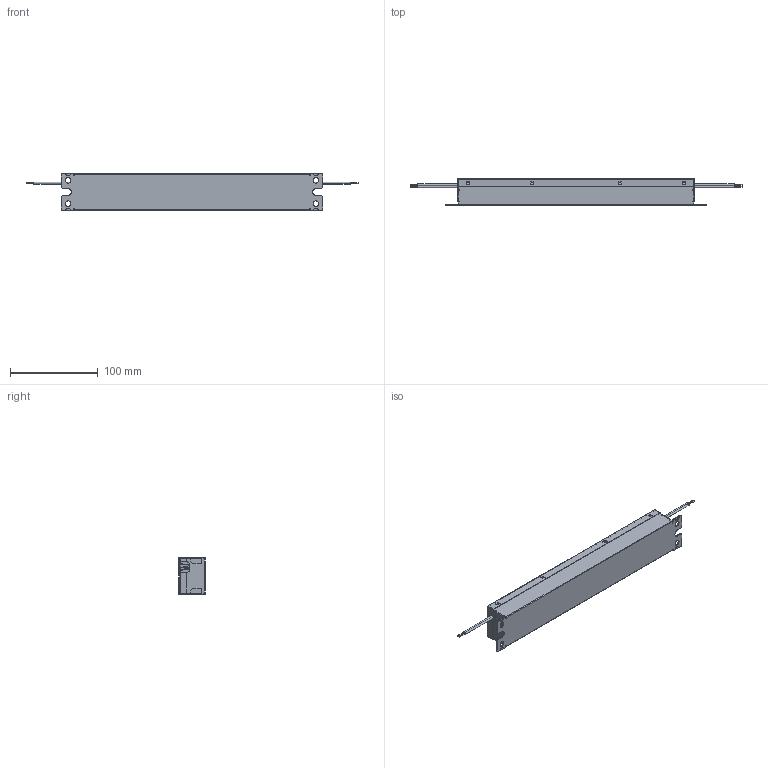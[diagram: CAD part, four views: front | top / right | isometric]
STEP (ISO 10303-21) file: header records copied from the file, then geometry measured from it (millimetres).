
FILE_DESCRIPTION (( 'STEP AP203' ), '1' );
FILE_NAME ('3D_USVI-120012FA.STEP', '2019-03-12T08:22:21', ( '' ), ( '' ), 'SwSTEP 2.0', 'SolidWorks 2016', '' );
FILE_SCHEMA (( 'CONFIG_CONTROL_DESIGN' ));
Length unit declared in the file: millimetre
Products named in the file (12): 3D_USVI-120012FA; Red+White wire; Base Body_F Can; Cover_F Can; SR (2 Wires); Base Side_A_F Can; SR (0 Wires); Red wire; White wire; Black wire; Base Side_B_F Can; Base_F Can
Assembly tree (12 placements, depth 3):
  3D_USVI-120012FA
    Cover_F Can
    Base_F Can
      Base Body_F Can
      Base Side_A_F Can
      Base Side_B_F Can
    SR (2 Wires)  x2
    SR (0 Wires)
    Black wire
    White wire
    Red wire
    Red+White wire
Bounding box: 379.35 x 30 x 43.1 mm (x, y, z)
Volume: 29520 mm3; surface area: 97939 mm2
Topology: 11 solids, 11 shells, 599 faces, 1591 edges, 1018 vertices
Faces by surface type: plane 464, cylinder 134, bspline 1
Entity records: 18497 total; most frequent: CARTESIAN_POINT 3015, ORIENTED_EDGE 2966, DIRECTION 2897, EDGE_CURVE 1483, VECTOR 1217, LINE 1217, VERTEX_POINT 946, AXIS2_PLACEMENT_3D 840
